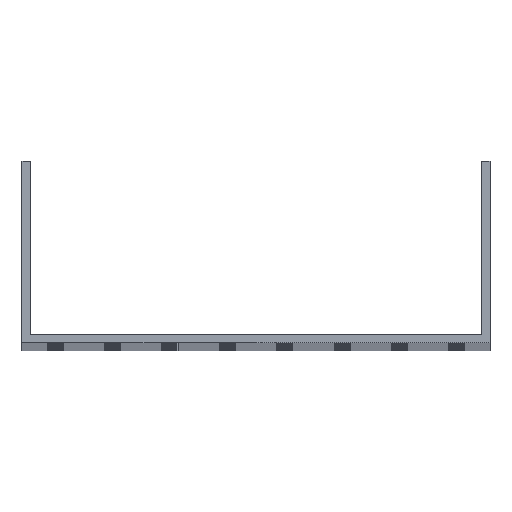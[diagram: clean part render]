
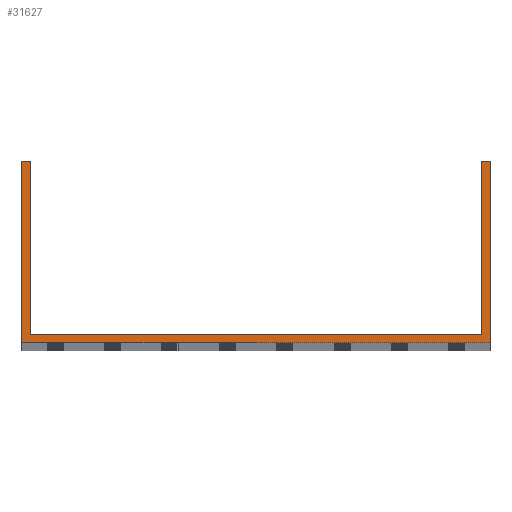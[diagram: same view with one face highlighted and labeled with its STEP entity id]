
A CAD part, top view. The second image highlights one B-rep face of the part: STEP entity #31627.
In plain terms, the highlighted planar face has unit normal (0, 0, 1).
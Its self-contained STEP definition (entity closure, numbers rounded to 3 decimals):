
#4631 = VERTEX_POINT ( 'NONE', #56006 ) ;
#4651 = CARTESIAN_POINT ( 'NONE',  ( -102., 3.5, 1000. ) ) ;
#4787 = LINE ( 'NONE', #52477, #25406 ) ;
#5587 = CARTESIAN_POINT ( 'NONE',  ( -102., 79., 1000. ) ) ;
#7275 = ORIENTED_EDGE ( 'NONE', *, *, #48754, .T. ) ;
#8017 = EDGE_CURVE ( 'NONE', #36019, #66893, #61279, .T. ) ;
#8050 = CARTESIAN_POINT ( 'NONE',  ( 102., 79., 1000. ) ) ;
#9448 = CARTESIAN_POINT ( 'NONE',  ( 102., 79., 1000. ) ) ;
#9822 = ORIENTED_EDGE ( 'NONE', *, *, #11800, .F. ) ;
#9880 = ORIENTED_EDGE ( 'NONE', *, *, #56879, .T. ) ;
#9899 = ORIENTED_EDGE ( 'NONE', *, *, #51697, .F. ) ;
#10301 = DIRECTION ( 'NONE',  ( 1., 0., 0. ) ) ;
#11800 = EDGE_CURVE ( 'NONE', #56388, #61728, #45995, .T. ) ;
#13145 = DIRECTION ( 'NONE',  ( 0., -1., 0. ) ) ;
#13811 = EDGE_CURVE ( 'NONE', #4631, #70410, #72719, .T. ) ;
#14172 = LINE ( 'NONE', #54674, #57556 ) ;
#15540 = ORIENTED_EDGE ( 'NONE', *, *, #39062, .F. ) ;
#15624 = VERTEX_POINT ( 'NONE', #17405 ) ;
#17405 = CARTESIAN_POINT ( 'NONE',  ( -98.5, 79., 1000. ) ) ;
#18795 = ORIENTED_EDGE ( 'NONE', *, *, #8017, .T. ) ;
#19288 = FACE_OUTER_BOUND ( 'NONE', #56654, .T. ) ;
#19610 = LINE ( 'NONE', #55342, #58386 ) ;
#20047 = ORIENTED_EDGE ( 'NONE', *, *, #13811, .T. ) ;
#20453 = VECTOR ( 'NONE', #58933, 1000. ) ;
#22218 = CARTESIAN_POINT ( 'NONE',  ( -102., 0., 1000. ) ) ;
#24014 = VECTOR ( 'NONE', #13145, 1000. ) ;
#25406 = VECTOR ( 'NONE', #29024, 1000. ) ;
#29024 = DIRECTION ( 'NONE',  ( -1., 0., 0. ) ) ;
#29341 = LINE ( 'NONE', #22218, #38507 ) ;
#31531 = VERTEX_POINT ( 'NONE', #77695 ) ;
#31627 = ADVANCED_FACE ( 'NONE', ( #19288 ), #38337, .T. ) ;
#36019 = VERTEX_POINT ( 'NONE', #43281 ) ;
#36297 = DIRECTION ( 'NONE',  ( -1., 0., 0. ) ) ;
#36384 = ORIENTED_EDGE ( 'NONE', *, *, #62237, .T. ) ;
#37557 = CARTESIAN_POINT ( 'NONE',  ( 98.5, 3.5, 1000. ) ) ;
#38337 = PLANE ( 'NONE',  #72439 ) ;
#38507 = VECTOR ( 'NONE', #10301, 1000. ) ;
#39062 = EDGE_CURVE ( 'NONE', #61728, #31531, #14172, .T. ) ;
#43281 = CARTESIAN_POINT ( 'NONE',  ( 102., 0., 1000. ) ) ;
#45995 = LINE ( 'NONE', #4651, #61531 ) ;
#48754 = EDGE_CURVE ( 'NONE', #66893, #31531, #4787, .T. ) ;
#51697 = EDGE_CURVE ( 'NONE', #15624, #56388, #77614, .T. ) ;
#52477 = CARTESIAN_POINT ( 'NONE',  ( -102., 79., 1000. ) ) ;
#52586 = CARTESIAN_POINT ( 'NONE',  ( -98.5, 79., 1000. ) ) ;
#53090 = DIRECTION ( 'NONE',  ( 1., 0., 0. ) ) ;
#54674 = CARTESIAN_POINT ( 'NONE',  ( 98.5, 79., 1000. ) ) ;
#54920 = DIRECTION ( 'NONE',  ( 0., 1., 0. ) ) ;
#55342 = CARTESIAN_POINT ( 'NONE',  ( -102., 79., 1000. ) ) ;
#55857 = DIRECTION ( 'NONE',  ( 0., 1., 0. ) ) ;
#56006 = CARTESIAN_POINT ( 'NONE',  ( -102., 79., 1000. ) ) ;
#56388 = VERTEX_POINT ( 'NONE', #70987 ) ;
#56582 = CARTESIAN_POINT ( 'NONE',  ( 0., 0., 1000. ) ) ;
#56654 = EDGE_LOOP ( 'NONE', ( #9899, #9880, #20047, #36384, #18795, #7275, #15540, #9822 ) ) ;
#56879 = EDGE_CURVE ( 'NONE', #15624, #4631, #19610, .T. ) ;
#57470 = CARTESIAN_POINT ( 'NONE',  ( -102., 0., 1000. ) ) ;
#57556 = VECTOR ( 'NONE', #55857, 1000. ) ;
#58386 = VECTOR ( 'NONE', #36297, 1000. ) ;
#58933 = DIRECTION ( 'NONE',  ( 0., -1., 0. ) ) ;
#61279 = LINE ( 'NONE', #8050, #72366 ) ;
#61531 = VECTOR ( 'NONE', #53090, 1000. ) ;
#61728 = VERTEX_POINT ( 'NONE', #37557 ) ;
#62237 = EDGE_CURVE ( 'NONE', #70410, #36019, #29341, .T. ) ;
#66893 = VERTEX_POINT ( 'NONE', #9448 ) ;
#68127 = DIRECTION ( 'NONE',  ( 0., 0., 1. ) ) ;
#70410 = VERTEX_POINT ( 'NONE', #57470 ) ;
#70987 = CARTESIAN_POINT ( 'NONE',  ( -98.5, 3.5, 1000. ) ) ;
#72366 = VECTOR ( 'NONE', #54920, 1000. ) ;
#72439 = AXIS2_PLACEMENT_3D ( 'NONE', #56582, #68127, #75271 ) ;
#72719 = LINE ( 'NONE', #5587, #24014 ) ;
#75271 = DIRECTION ( 'NONE',  ( 1., 0., 0. ) ) ;
#77614 = LINE ( 'NONE', #52586, #20453 ) ;
#77695 = CARTESIAN_POINT ( 'NONE',  ( 98.5, 79., 1000. ) ) ;
